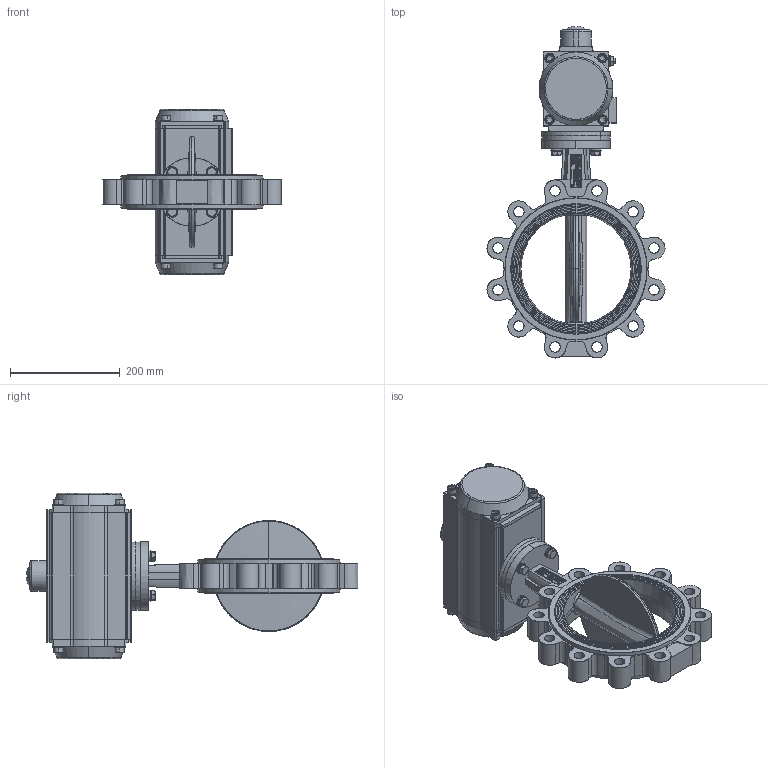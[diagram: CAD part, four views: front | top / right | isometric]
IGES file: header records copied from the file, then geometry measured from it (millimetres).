
Start section: SolidWorks IGES file using analytic representation for surfaces
Global section: file name: H:\BE FABRICATION\BE SERIE\VP\VP SERIE\F072 VPG\plan 3D\VPG-N03\LUG\DN200 PN16\VPG464X-N03XX0200.igs; native system: SolidWorks 2020; preprocessor: SolidWorks 2020; author: k.gigout; date: 220627.175110; units: millimetre
Bounding box: 324.94 x 605.93 x 302 mm (x, y, z)
Surface area: 617578.7 mm2 (no closed solid volume)
Topology: 0 solids, 0 shells, 733 faces, 20153 edges, 20149 vertices
Faces by surface type: bspline 400, revolution 333
